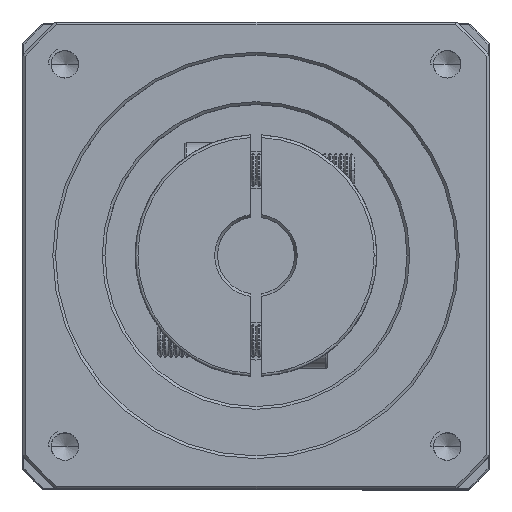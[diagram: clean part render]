
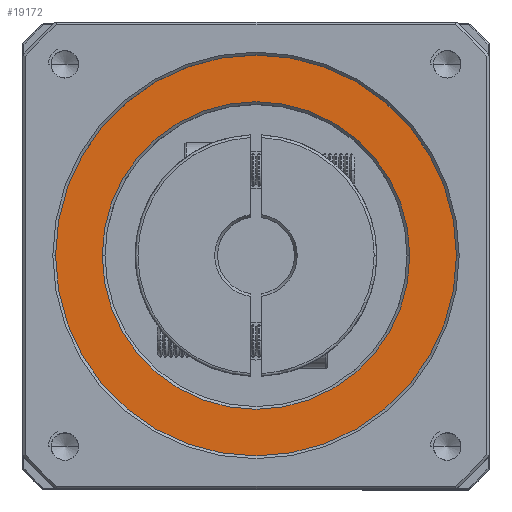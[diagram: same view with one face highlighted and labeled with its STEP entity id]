
A CAD part, top view. The second image highlights one B-rep face of the part: STEP entity #19172.
In plain terms, the highlighted planar face has unit normal (0, 0, 1).
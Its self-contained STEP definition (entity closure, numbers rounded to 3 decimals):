
#1061 = VERTEX_POINT ( 'NONE', #104551 ) ;
#3277 = PLANE ( 'NONE',  #12646 ) ;
#3586 = ORIENTED_EDGE ( 'NONE', *, *, #43088, .T. ) ;
#3651 = CARTESIAN_POINT ( 'NONE',  ( 45.088, 7.351, 102.5 ) ) ;
#4833 = VERTEX_POINT ( 'NONE', #76995 ) ;
#7492 = ORIENTED_EDGE ( 'NONE', *, *, #21771, .T. ) ;
#11992 = DIRECTION ( 'NONE',  ( 1., 0., 0. ) ) ;
#12646 = AXIS2_PLACEMENT_3D ( 'NONE', #3651, #61352, #11992 ) ;
#19172 = ADVANCED_FACE ( 'NONE', ( #21301, #86969 ), #3277, .T. ) ;
#21301 = FACE_OUTER_BOUND ( 'NONE', #54577, .T. ) ;
#21771 = EDGE_CURVE ( 'NONE', #41039, #1061, #87067, .T. ) ;
#28553 = CARTESIAN_POINT ( 'NONE',  ( 45.088, 7.351, 102.5 ) ) ;
#35100 = CARTESIAN_POINT ( 'NONE',  ( 45.088, 7.351, 102.5 ) ) ;
#35703 = CARTESIAN_POINT ( 'NONE',  ( 45.088, 7.351, 102.5 ) ) ;
#36851 = DIRECTION ( 'NONE',  ( 1., 0., 0. ) ) ;
#38555 = DIRECTION ( 'NONE',  ( 0., 0., 1. ) ) ;
#41039 = VERTEX_POINT ( 'NONE', #54809 ) ;
#42258 = AXIS2_PLACEMENT_3D ( 'NONE', #28553, #86093, #36851 ) ;
#43088 = EDGE_CURVE ( 'NONE', #1061, #41039, #72340, .T. ) ;
#43412 = DIRECTION ( 'NONE',  ( 1., 0., 0. ) ) ;
#43774 = CARTESIAN_POINT ( 'NONE',  ( 8.588, 7.351, 102.5 ) ) ;
#44026 = DIRECTION ( 'NONE',  ( 1., 0., 0. ) ) ;
#45562 = AXIS2_PLACEMENT_3D ( 'NONE', #35703, #93184, #44026 ) ;
#54577 = EDGE_LOOP ( 'NONE', ( #105849, #99492 ) ) ;
#54809 = CARTESIAN_POINT ( 'NONE',  ( 17.088, 7.351, 102.5 ) ) ;
#55682 = AXIS2_PLACEMENT_3D ( 'NONE', #87777, #38555, #95945 ) ;
#61352 = DIRECTION ( 'NONE',  ( 0., 0., 1. ) ) ;
#72340 = CIRCLE ( 'NONE', #42258, 28. ) ;
#76527 = CIRCLE ( 'NONE', #94687, 36.5 ) ;
#76995 = CARTESIAN_POINT ( 'NONE',  ( 81.588, 7.351, 102.5 ) ) ;
#79884 = CIRCLE ( 'NONE', #55682, 36.5 ) ;
#86093 = DIRECTION ( 'NONE',  ( 0., 0., -1. ) ) ;
#86969 = FACE_BOUND ( 'NONE', #89816, .T. ) ;
#87067 = CIRCLE ( 'NONE', #45562, 28. ) ;
#87777 = CARTESIAN_POINT ( 'NONE',  ( 45.088, 7.351, 102.5 ) ) ;
#89816 = EDGE_LOOP ( 'NONE', ( #3586, #7492 ) ) ;
#92574 = DIRECTION ( 'NONE',  ( 0., 0., 1. ) ) ;
#93184 = DIRECTION ( 'NONE',  ( 0., 0., -1. ) ) ;
#94687 = AXIS2_PLACEMENT_3D ( 'NONE', #35100, #92574, #43412 ) ;
#95945 = DIRECTION ( 'NONE',  ( 1., 0., 0. ) ) ;
#99492 = ORIENTED_EDGE ( 'NONE', *, *, #106469, .T. ) ;
#102353 = EDGE_CURVE ( 'NONE', #4833, #104993, #79884, .T. ) ;
#104551 = CARTESIAN_POINT ( 'NONE',  ( 73.088, 7.351, 102.5 ) ) ;
#104993 = VERTEX_POINT ( 'NONE', #43774 ) ;
#105849 = ORIENTED_EDGE ( 'NONE', *, *, #102353, .T. ) ;
#106469 = EDGE_CURVE ( 'NONE', #104993, #4833, #76527, .T. ) ;
